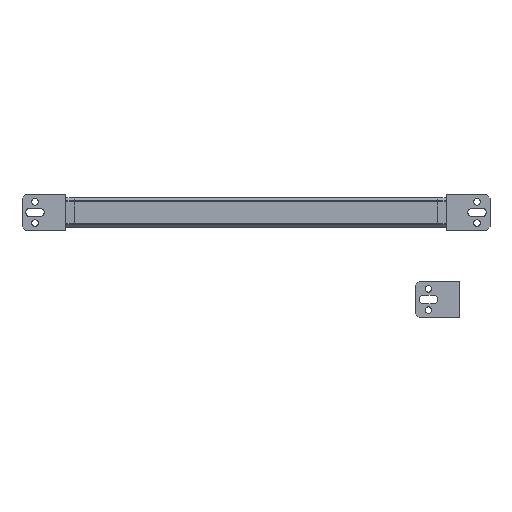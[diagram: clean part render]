
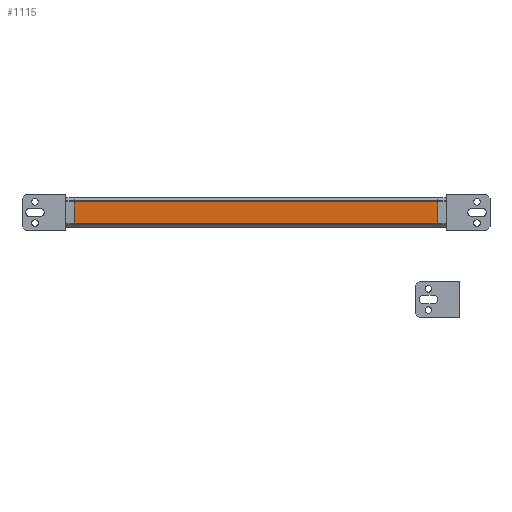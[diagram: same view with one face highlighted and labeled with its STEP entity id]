
A CAD part, top view. The second image highlights one B-rep face of the part: STEP entity #1115.
In plain terms, the highlighted planar face has unit normal (0, 0, 1).
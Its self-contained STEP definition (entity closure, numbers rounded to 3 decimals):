
#1057=CARTESIAN_POINT('',(-245.75,10.177,17.1));
#1058=VERTEX_POINT('',#1057);
#1066=CARTESIAN_POINT('',(95.75,10.177,17.1));
#1067=VERTEX_POINT('',#1066);
#1068=CARTESIAN_POINT('',(95.75,10.177,17.1));
#1069=DIRECTION('',(-1.0,0.0,0.0));
#1070=VECTOR('',#1069,341.5);
#1071=LINE('',#1068,#1070);
#1072=EDGE_CURVE('',#1067,#1058,#1071,.T.);
#1085=CARTESIAN_POINT('',(95.75,10.177,17.1));
#1086=DIRECTION('',(0.0,0.0,1.0));
#1087=DIRECTION('',(1.0,0.0,0.0));
#1088=AXIS2_PLACEMENT_3D('',#1085,#1086,#1087);
#1089=PLANE('',#1088);
#1090=CARTESIAN_POINT('',(-245.75,-10.177,17.1));
#1091=VERTEX_POINT('',#1090);
#1092=CARTESIAN_POINT('',(-245.75,10.177,17.1));
#1093=DIRECTION('',(0.0,-1.0,0.0));
#1094=VECTOR('',#1093,20.354);
#1095=LINE('',#1092,#1094);
#1096=EDGE_CURVE('',#1058,#1091,#1095,.T.);
#1097=ORIENTED_EDGE('',*,*,#1096,.T.);
#1098=CARTESIAN_POINT('',(95.75,-10.177,17.1));
#1099=VERTEX_POINT('',#1098);
#1100=CARTESIAN_POINT('',(95.75,-10.177,17.1));
#1101=DIRECTION('',(-1.0,0.0,0.0));
#1102=VECTOR('',#1101,341.5);
#1103=LINE('',#1100,#1102);
#1104=EDGE_CURVE('',#1099,#1091,#1103,.T.);
#1105=ORIENTED_EDGE('',*,*,#1104,.F.);
#1106=CARTESIAN_POINT('',(95.75,10.177,17.1));
#1107=DIRECTION('',(0.0,-1.0,0.0));
#1108=VECTOR('',#1107,20.354);
#1109=LINE('',#1106,#1108);
#1110=EDGE_CURVE('',#1067,#1099,#1109,.T.);
#1111=ORIENTED_EDGE('',*,*,#1110,.F.);
#1112=ORIENTED_EDGE('',*,*,#1072,.T.);
#1113=EDGE_LOOP('',(#1097,#1105,#1111,#1112));
#1114=FACE_OUTER_BOUND('',#1113,.T.);
#1115=ADVANCED_FACE('',(#1114),#1089,.T.);
